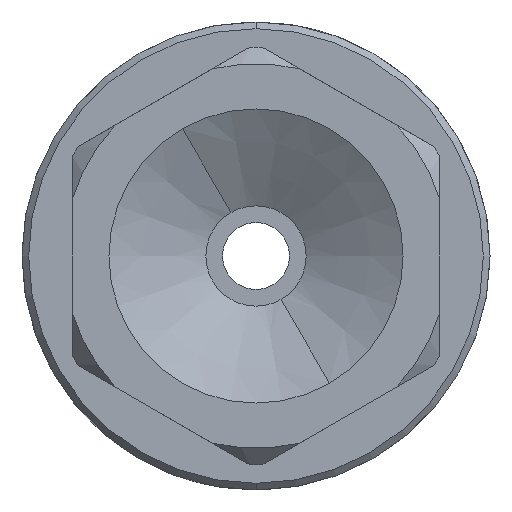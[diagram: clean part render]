
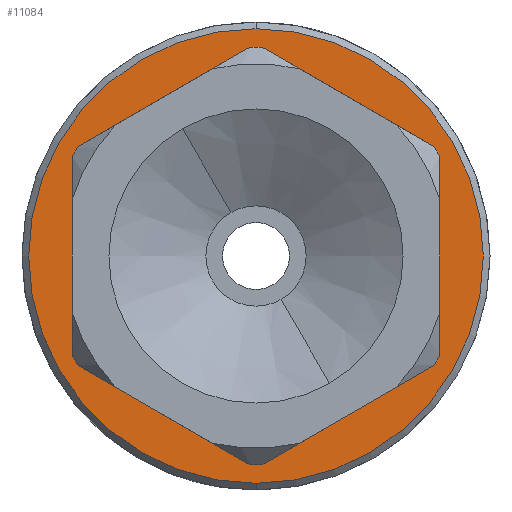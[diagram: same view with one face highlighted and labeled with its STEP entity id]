
A CAD part, front view. The second image highlights one B-rep face of the part: STEP entity #11084.
In plain terms, the highlighted planar face has unit normal (0, -1, 0).
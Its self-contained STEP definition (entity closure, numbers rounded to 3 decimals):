
#175 = AXIS2_PLACEMENT_3D ( 'NONE', #13953, #6395, #15238 ) ;
#514 = DIRECTION ( 'NONE',  ( 0., 1., 0. ) ) ;
#744 = ORIENTED_EDGE ( 'NONE', *, *, #15270, .F. ) ;
#1087 = CARTESIAN_POINT ( 'NONE',  ( -12.587, -8.676, 14.118 ) ) ;
#1111 = DIRECTION ( 'NONE',  ( 0., 0., -1. ) ) ;
#1563 = VERTEX_POINT ( 'NONE', #1634 ) ;
#1634 = CARTESIAN_POINT ( 'NONE',  ( -5.706, -8.676, 24.2 ) ) ;
#2369 = DIRECTION ( 'NONE',  ( 0., 0., 1. ) ) ;
#2472 = EDGE_LOOP ( 'NONE', ( #15382, #744 ) ) ;
#2869 = CIRCLE ( 'NONE', #13150, 3.2 ) ;
#3817 = CIRCLE ( 'NONE', #6342, 6.8 ) ;
#4415 = ORIENTED_EDGE ( 'NONE', *, *, #5711, .F. ) ;
#5711 = EDGE_CURVE ( 'NONE', #9593, #1563, #2869, .T. ) ;
#6342 = AXIS2_PLACEMENT_3D ( 'NONE', #14940, #7372, #16193 ) ;
#6395 = DIRECTION ( 'NONE',  ( 0., -1., 0. ) ) ;
#7011 = CARTESIAN_POINT ( 'NONE',  ( -5.706, -8.676, 17.8 ) ) ;
#7372 = DIRECTION ( 'NONE',  ( 0., 1., 0. ) ) ;
#7407 = AXIS2_PLACEMENT_3D ( 'NONE', #8048, #514, #9301 ) ;
#7832 = VERTEX_POINT ( 'NONE', #16139 ) ;
#8048 = CARTESIAN_POINT ( 'NONE',  ( -5.706, -8.676, 21. ) ) ;
#8652 = DIRECTION ( 'NONE',  ( 0., -1., 0. ) ) ;
#9301 = DIRECTION ( 'NONE',  ( 0., 0., 1. ) ) ;
#9593 = VERTEX_POINT ( 'NONE', #7011 ) ;
#9810 = CIRCLE ( 'NONE', #7407, 6.8 ) ;
#9822 = PLANE ( 'NONE',  #12341 ) ;
#9831 = FACE_BOUND ( 'NONE', #12633, .T. ) ;
#9881 = DIRECTION ( 'NONE',  ( 0., 1., 0. ) ) ;
#9931 = VERTEX_POINT ( 'NONE', #10019 ) ;
#10019 = CARTESIAN_POINT ( 'NONE',  ( -5.706, -8.676, 14.2 ) ) ;
#11084 = ADVANCED_FACE ( 'NONE', ( #9831, #13618 ), #9822, .F. ) ;
#12341 = AXIS2_PLACEMENT_3D ( 'NONE', #1087, #9881, #2369 ) ;
#12633 = EDGE_LOOP ( 'NONE', ( #4415, #13042 ) ) ;
#13036 = EDGE_CURVE ( 'NONE', #7832, #9931, #9810, .T. ) ;
#13042 = ORIENTED_EDGE ( 'NONE', *, *, #13298, .F. ) ;
#13150 = AXIS2_PLACEMENT_3D ( 'NONE', #16205, #8652, #1111 ) ;
#13298 = EDGE_CURVE ( 'NONE', #1563, #9593, #16118, .T. ) ;
#13618 = FACE_OUTER_BOUND ( 'NONE', #2472, .T. ) ;
#13953 = CARTESIAN_POINT ( 'NONE',  ( -5.706, -8.676, 21. ) ) ;
#14940 = CARTESIAN_POINT ( 'NONE',  ( -5.706, -8.676, 21. ) ) ;
#15238 = DIRECTION ( 'NONE',  ( 0., 0., -1. ) ) ;
#15270 = EDGE_CURVE ( 'NONE', #9931, #7832, #3817, .T. ) ;
#15382 = ORIENTED_EDGE ( 'NONE', *, *, #13036, .F. ) ;
#16118 = CIRCLE ( 'NONE', #175, 3.2 ) ;
#16139 = CARTESIAN_POINT ( 'NONE',  ( -5.706, -8.676, 27.8 ) ) ;
#16193 = DIRECTION ( 'NONE',  ( 0., 0., 1. ) ) ;
#16205 = CARTESIAN_POINT ( 'NONE',  ( -5.706, -8.676, 21. ) ) ;
